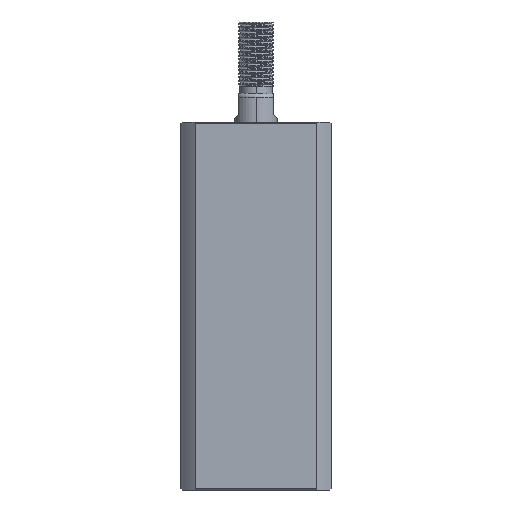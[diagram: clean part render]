
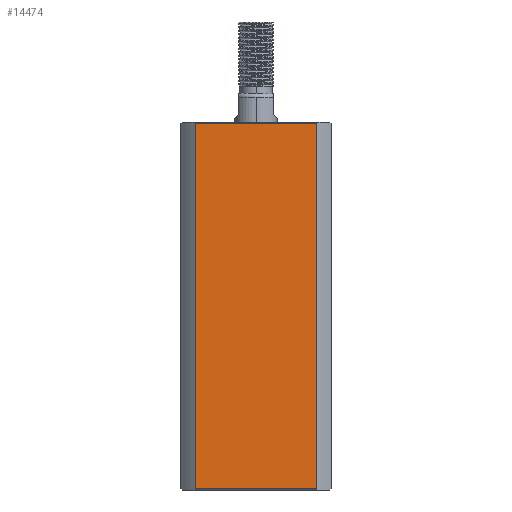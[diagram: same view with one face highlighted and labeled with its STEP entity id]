
A CAD part, left-side view. The second image highlights one B-rep face of the part: STEP entity #14474.
In plain terms, the highlighted planar face has unit normal (-1, 0, 0).
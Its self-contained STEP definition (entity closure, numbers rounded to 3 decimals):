
#59 = VERTEX_POINT ( 'NONE', #2625 ) ;
#108 = ORIENTED_EDGE ( 'NONE', *, *, #4316, .F. ) ;
#461 = CARTESIAN_POINT ( 'NONE',  ( -21., -16.971, 0.3 ) ) ;
#688 = DIRECTION ( 'NONE',  ( 0., 0., 1. ) ) ;
#2625 = CARTESIAN_POINT ( 'NONE',  ( -21., 16.971, 102.7 ) ) ;
#3012 = VECTOR ( 'NONE', #12645, 1000. ) ;
#3809 = VERTEX_POINT ( 'NONE', #461 ) ;
#3881 = VECTOR ( 'NONE', #688, 1000. ) ;
#4316 = EDGE_CURVE ( 'NONE', #7569, #3809, #13851, .T. ) ;
#4393 = EDGE_CURVE ( 'NONE', #10329, #59, #7019, .T. ) ;
#4514 = CARTESIAN_POINT ( 'NONE',  ( -21., 21., 102.7 ) ) ;
#4522 = CARTESIAN_POINT ( 'NONE',  ( -21., 21., 0.3 ) ) ;
#4983 = CARTESIAN_POINT ( 'NONE',  ( -21., 21., 103. ) ) ;
#5278 = CARTESIAN_POINT ( 'NONE',  ( -21., 16.971, -47. ) ) ;
#5346 = LINE ( 'NONE', #4514, #14567 ) ;
#5585 = EDGE_LOOP ( 'NONE', ( #5711, #10788, #108, #7920 ) ) ;
#5711 = ORIENTED_EDGE ( 'NONE', *, *, #4393, .F. ) ;
#6106 = LINE ( 'NONE', #4522, #3012 ) ;
#6175 = DIRECTION ( 'NONE',  ( 1., 0., 0. ) ) ;
#6398 = DIRECTION ( 'NONE',  ( 0., 0., -1. ) ) ;
#7019 = LINE ( 'NONE', #5278, #3881 ) ;
#7569 = VERTEX_POINT ( 'NONE', #12447 ) ;
#7920 = ORIENTED_EDGE ( 'NONE', *, *, #13323, .T. ) ;
#7984 = DIRECTION ( 'NONE',  ( 0., 1., 0. ) ) ;
#9338 = CARTESIAN_POINT ( 'NONE',  ( -21., 16.971, 0.3 ) ) ;
#9488 = PLANE ( 'NONE',  #10442 ) ;
#10053 = FACE_OUTER_BOUND ( 'NONE', #5585, .T. ) ;
#10186 = EDGE_CURVE ( 'NONE', #10329, #3809, #6106, .T. ) ;
#10329 = VERTEX_POINT ( 'NONE', #9338 ) ;
#10442 = AXIS2_PLACEMENT_3D ( 'NONE', #4983, #6175, #14239 ) ;
#10477 = VECTOR ( 'NONE', #6398, 1000. ) ;
#10788 = ORIENTED_EDGE ( 'NONE', *, *, #10186, .T. ) ;
#11018 = CARTESIAN_POINT ( 'NONE',  ( -21., -16.971, -47. ) ) ;
#12447 = CARTESIAN_POINT ( 'NONE',  ( -21., -16.971, 102.7 ) ) ;
#12645 = DIRECTION ( 'NONE',  ( 0., -1., 0. ) ) ;
#13323 = EDGE_CURVE ( 'NONE', #7569, #59, #5346, .T. ) ;
#13851 = LINE ( 'NONE', #11018, #10477 ) ;
#14239 = DIRECTION ( 'NONE',  ( 0., 1., 0. ) ) ;
#14474 = ADVANCED_FACE ( 'NONE', ( #10053 ), #9488, .F. ) ;
#14567 = VECTOR ( 'NONE', #7984, 1000. ) ;
